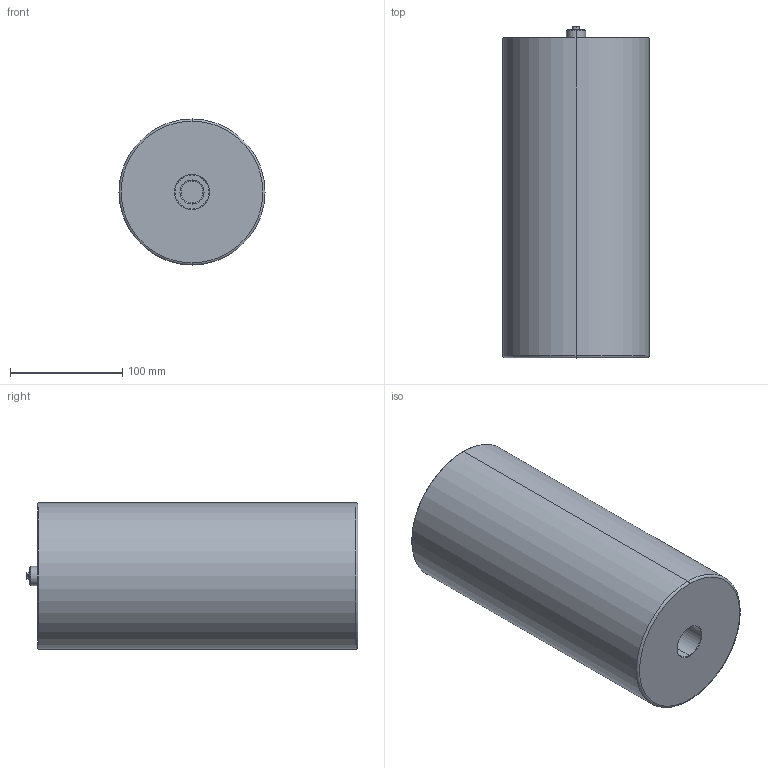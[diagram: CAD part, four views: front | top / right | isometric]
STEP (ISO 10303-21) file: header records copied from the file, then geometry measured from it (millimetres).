
FILE_DESCRIPTION (( 'STEP AP214' ), '1' );
FILE_NAME ('U015A01X1-PC.STEP', '2025-04-10T10:36:52', ( '' ), ( '' ), 'SwSTEP 2.0', 'SolidWorks 2024', '' );
FILE_SCHEMA (( 'AUTOMOTIVE_DESIGN' ));
Length unit declared in the file: millimetre
Products named in the file (1): U015A01X1-PC
Bounding box: 130 x 295.2 x 130 mm (x, y, z)
Volume: 3649830.4 mm3; surface area: 180682.2 mm2
Topology: 4 solids, 4 shells, 168 faces, 353 edges, 207 vertices
Faces by surface type: cylinder 55, cone 46, plane 45, torus 22
Entity records: 5947 total; most frequent: DIRECTION 869, CARTESIAN_POINT 841, ORIENTED_EDGE 706, AXIS2_PLACEMENT_3D 367, EDGE_CURVE 353, VERTEX_POINT 207, CIRCLE 198, EDGE_LOOP 190
